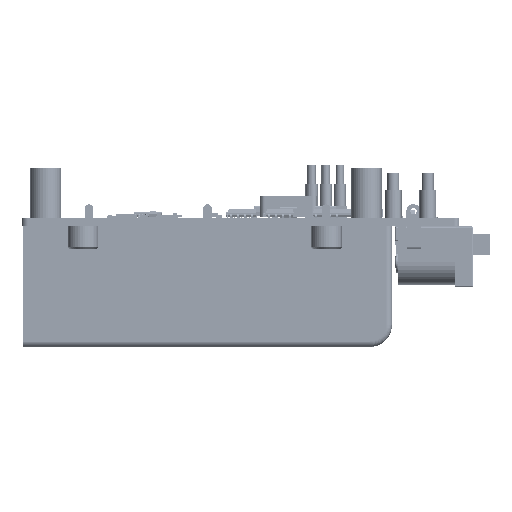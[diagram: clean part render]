
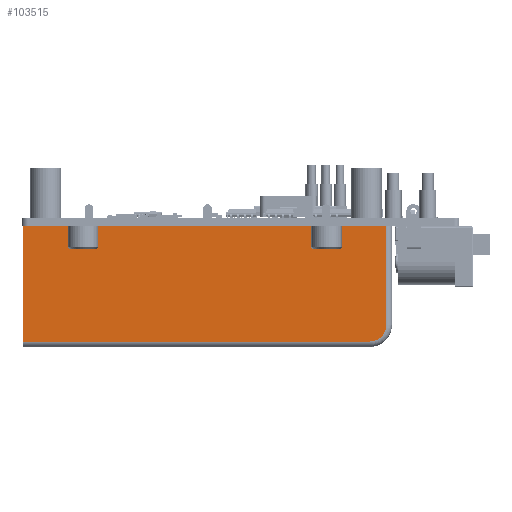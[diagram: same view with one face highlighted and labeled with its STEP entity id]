
A CAD part, left-side view. The second image highlights one B-rep face of the part: STEP entity #103515.
In plain terms, the highlighted planar face has unit normal (-1, 0, 0) as drawn and (0, -1, 0) by its records, which use the part's own axes.
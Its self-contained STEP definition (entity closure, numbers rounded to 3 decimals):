
#93548=DIRECTION('',(0.,0.,-1.));
#93549=VECTOR('',#93548,20.8);
#93550=CARTESIAN_POINT('',(33.3,-41.5,20.8));
#93551=LINE('',#93550,#93549);
#93745=DIRECTION('',(-1.,0.,0.));
#93746=VECTOR('',#93745,65.6);
#93747=CARTESIAN_POINT('',(33.3,-41.5,0.));
#93748=LINE('',#93747,#93746);
#93821=DIRECTION('',(0.,0.,1.));
#93822=VECTOR('',#93821,17.8);
#93823=CARTESIAN_POINT('',(-32.3,-41.5,0.));
#93824=LINE('',#93823,#93822);
#93852=CARTESIAN_POINT('',(-29.3,-41.5,17.8));
#93853=DIRECTION('',(0.,-1.,0.));
#93854=DIRECTION('',(0.,0.,1.));
#93855=AXIS2_PLACEMENT_3D('',#93852,#93853,#93854);
#93860=DIRECTION('',(1.,0.,0.));
#93861=VECTOR('',#93860,62.6);
#93862=CARTESIAN_POINT('',(-29.3,-41.5,20.8));
#93863=LINE('',#93862,#93861);
#102288=CARTESIAN_POINT('',(33.3,-41.5,0.));
#102289=VERTEX_POINT('',#102288);
#102290=CARTESIAN_POINT('',(-32.3,-41.5,0.));
#102291=VERTEX_POINT('',#102290);
#102412=CARTESIAN_POINT('',(33.3,-41.5,20.8));
#102413=VERTEX_POINT('',#102412);
#102430=CARTESIAN_POINT('',(-32.3,-41.5,17.8));
#102431=VERTEX_POINT('',#102430);
#102432=CARTESIAN_POINT('',(-29.3,-41.5,20.8));
#102433=VERTEX_POINT('',#102432);
#103502=CARTESIAN_POINT('',(-33.3,-41.5,0.));
#103503=DIRECTION('',(0.,-1.,0.));
#103504=DIRECTION('',(1.,0.,0.));
#103505=AXIS2_PLACEMENT_3D('',#103502,#103503,#103504);
#103506=PLANE('',#103505);
#103507=ORIENTED_EDGE('',*,*,#103481,.T.);
#103508=ORIENTED_EDGE('',*,*,#103492,.F.);
#103510=ORIENTED_EDGE('',*,*,#103509,.T.);
#103511=ORIENTED_EDGE('',*,*,#103239,.T.);
#103512=ORIENTED_EDGE('',*,*,#103388,.T.);
#103513=EDGE_LOOP('',(#103507,#103508,#103510,#103511,#103512));
#103514=FACE_OUTER_BOUND('',#103513,.F.);
#103515=ADVANCED_FACE('',(#103514),#103506,.T.);
#93856=CIRCLE('',#93855,3.);
#103239=EDGE_CURVE('',#102413,#102289,#93551,.T.);
#103388=EDGE_CURVE('',#102289,#102291,#93748,.T.);
#103481=EDGE_CURVE('',#102291,#102431,#93824,.T.);
#103492=EDGE_CURVE('',#102433,#102431,#93856,.T.);
#103509=EDGE_CURVE('',#102433,#102413,#93863,.T.);
